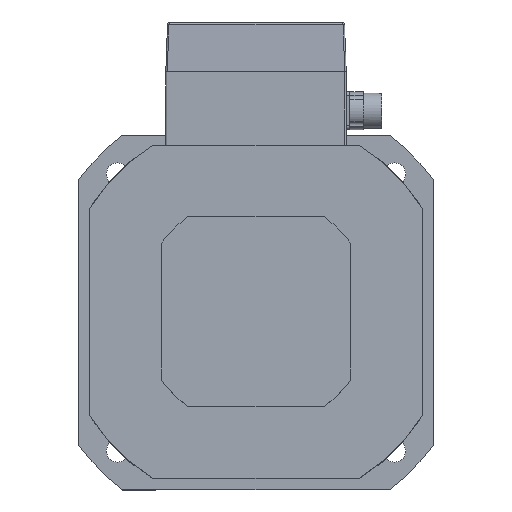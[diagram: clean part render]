
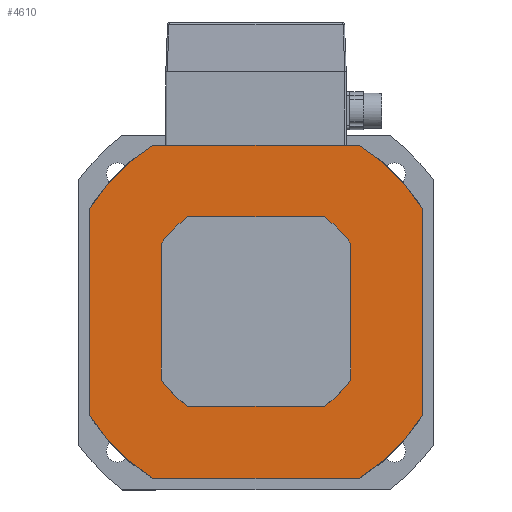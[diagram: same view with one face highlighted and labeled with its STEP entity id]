
A CAD part, top view. The second image highlights one B-rep face of the part: STEP entity #4610.
In plain terms, the highlighted planar face has unit normal (0, 0, 1).
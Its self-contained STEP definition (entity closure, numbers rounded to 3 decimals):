
#1037=PLANE('',#4861);
#1162=VECTOR('',#5324,1.);
#1166=VECTOR('',#5335,1.);
#1170=VECTOR('',#5346,1.);
#1172=VECTOR('',#5349,1.);
#1444=LINE('',#6406,#1162);
#1448=LINE('',#6418,#1166);
#1452=LINE('',#6430,#1170);
#1454=LINE('',#6434,#1172);
#1724=VERTEX_POINT('',#6397);
#1725=VERTEX_POINT('',#6399);
#1727=VERTEX_POINT('',#6405);
#1729=VERTEX_POINT('',#6411);
#1731=VERTEX_POINT('',#6417);
#1733=VERTEX_POINT('',#6423);
#1735=VERTEX_POINT('',#6429);
#1737=VERTEX_POINT('',#6435);
#2104=CIRCLE('',#4846,132.5);
#2106=CIRCLE('',#4850,132.5);
#2108=CIRCLE('',#4854,132.5);
#2110=CIRCLE('',#4860,132.5);
#2308=EDGE_CURVE('',#1725,#1724,#2104,.T.);
#2312=EDGE_CURVE('',#1724,#1727,#1444,.T.);
#2315=EDGE_CURVE('',#1727,#1729,#2106,.T.);
#2318=EDGE_CURVE('',#1729,#1731,#1448,.T.);
#2321=EDGE_CURVE('',#1731,#1733,#2108,.T.);
#2324=EDGE_CURVE('',#1733,#1735,#1452,.T.);
#2326=EDGE_CURVE('',#1737,#1725,#1454,.T.);
#2329=EDGE_CURVE('',#1735,#1737,#2110,.T.);
#2902=ORIENTED_EDGE('',*,*,#2324,.T.);
#2903=ORIENTED_EDGE('',*,*,#2329,.T.);
#2904=ORIENTED_EDGE('',*,*,#2326,.T.);
#2905=ORIENTED_EDGE('',*,*,#2308,.T.);
#2906=ORIENTED_EDGE('',*,*,#2312,.T.);
#2907=ORIENTED_EDGE('',*,*,#2315,.T.);
#2908=ORIENTED_EDGE('',*,*,#2318,.T.);
#2909=ORIENTED_EDGE('',*,*,#2321,.T.);
#3983=EDGE_LOOP('',(#2902,#2903,#2904,#2905,#2906,#2907,#2908,#2909));
#4295=FACE_BOUND('',#3983,.T.);
#4610=ADVANCED_FACE('',(#4295),#1037,.T.);
#4846=AXIS2_PLACEMENT_3D('',#6398,#5318,#5319);
#4850=AXIS2_PLACEMENT_3D('',#6412,#5330,#5331);
#4854=AXIS2_PLACEMENT_3D('',#6424,#5341,#5342);
#4860=AXIS2_PLACEMENT_3D('',#6440,#5356,#5357);
#4861=AXIS2_PLACEMENT_3D('',#6441,#5358,$);
#5318=DIRECTION('',(0.,0.,1.));
#5319=DIRECTION('',(132.5,0.,0.));
#5324=DIRECTION('',(1.,0.,0.));
#5330=DIRECTION('',(0.,0.,1.));
#5331=DIRECTION('',(132.5,0.,0.));
#5335=DIRECTION('',(0.,1.,0.));
#5341=DIRECTION('',(0.,0.,1.));
#5342=DIRECTION('',(132.5,0.,0.));
#5346=DIRECTION('',(-1.,0.,0.));
#5349=DIRECTION('',(0.,-1.,0.));
#5356=DIRECTION('',(0.,0.,1.));
#5357=DIRECTION('',(132.5,0.,0.));
#5358=DIRECTION('',(0.,0.,1.));
#6397=CARTESIAN_POINT('',(-70.,-112.5,0.));
#6398=CARTESIAN_POINT('',(0.,0.,0.));
#6399=CARTESIAN_POINT('',(-112.5,-70.,0.));
#6405=CARTESIAN_POINT('',(70.,-112.5,0.));
#6406=CARTESIAN_POINT('',(-70.,-112.5,0.));
#6411=CARTESIAN_POINT('',(112.5,-70.,0.));
#6412=CARTESIAN_POINT('',(0.,0.,0.));
#6417=CARTESIAN_POINT('',(112.5,70.,0.));
#6418=CARTESIAN_POINT('',(112.5,-70.,0.));
#6423=CARTESIAN_POINT('',(70.,112.5,0.));
#6424=CARTESIAN_POINT('',(0.,0.,0.));
#6429=CARTESIAN_POINT('',(-70.,112.5,0.));
#6430=CARTESIAN_POINT('',(70.,112.5,0.));
#6434=CARTESIAN_POINT('',(-112.5,70.,0.));
#6435=CARTESIAN_POINT('',(-112.5,70.,0.));
#6440=CARTESIAN_POINT('',(0.,0.,0.));
#6441=CARTESIAN_POINT('',(0.,0.,0.));
